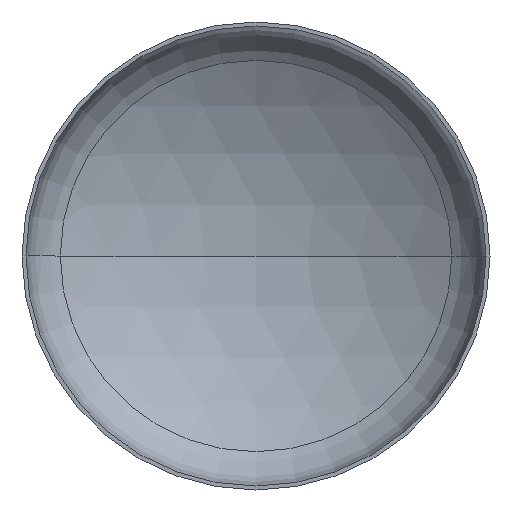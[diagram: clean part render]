
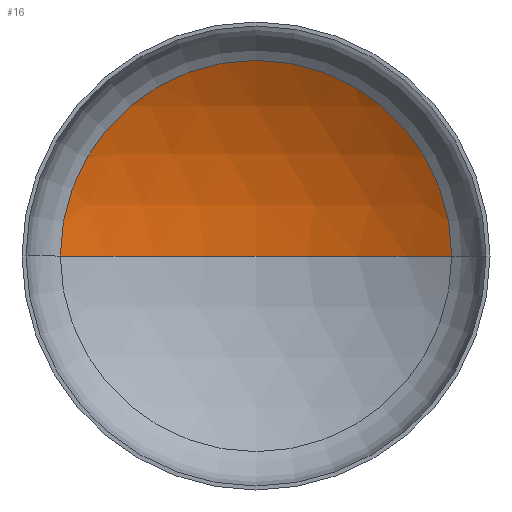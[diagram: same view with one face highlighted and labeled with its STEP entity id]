
A CAD part, front view. The second image highlights one B-rep face of the part: STEP entity #16.
In plain terms, the highlighted spherical face has radius 2080 mm.
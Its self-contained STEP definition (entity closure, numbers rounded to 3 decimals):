
#1 = AXIS2_PLACEMENT_3D ( 'NONE', #160, #362, #363 ) ;
#6 = EDGE_LOOP ( 'NONE', ( #202, #183, #131 ) ) ;
#11 = AXIS2_PLACEMENT_3D ( 'NONE', #305, #247, #13 ) ;
#13 = DIRECTION ( 'NONE',  ( 1., 0., 0. ) ) ;
#16 = ADVANCED_FACE ( 'NONE', ( #211 ), #205, .F. ) ;
#28 = DIRECTION ( 'NONE',  ( -1., 0., 0. ) ) ;
#44 = AXIS2_PLACEMENT_3D ( 'NONE', #243, #290, #292 ) ;
#69 = CARTESIAN_POINT ( 'NONE',  ( -1087.048, 411.027, 0. ) ) ;
#77 = VERTEX_POINT ( 'NONE', #185 ) ;
#106 = VERTEX_POINT ( 'NONE', #69 ) ;
#119 = CARTESIAN_POINT ( 'NONE',  ( 0., -1362.311, 0. ) ) ;
#131 = ORIENTED_EDGE ( 'NONE', *, *, #338, .T. ) ;
#160 = CARTESIAN_POINT ( 'NONE',  ( 0., -1362.311, 0. ) ) ;
#183 = ORIENTED_EDGE ( 'NONE', *, *, #384, .T. ) ;
#185 = CARTESIAN_POINT ( 'NONE',  ( 0., 717.689, 0. ) ) ;
#186 = CARTESIAN_POINT ( 'NONE',  ( 1087.048, 411.027, 0. ) ) ;
#202 = ORIENTED_EDGE ( 'NONE', *, *, #374, .F. ) ;
#205 = SPHERICAL_SURFACE ( 'NONE', #44, 2080. ) ;
#211 = FACE_OUTER_BOUND ( 'NONE', #6, .T. ) ;
#233 = AXIS2_PLACEMENT_3D ( 'NONE', #119, #337, #28 ) ;
#243 = CARTESIAN_POINT ( 'NONE',  ( 0., -1362.311, 0. ) ) ;
#247 = DIRECTION ( 'NONE',  ( 0., -1., 0. ) ) ;
#265 = CIRCLE ( 'NONE', #233, 2080. ) ;
#279 = VERTEX_POINT ( 'NONE', #186 ) ;
#290 = DIRECTION ( 'NONE',  ( 0., 0., -1. ) ) ;
#292 = DIRECTION ( 'NONE',  ( -1., 0., 0. ) ) ;
#305 = CARTESIAN_POINT ( 'NONE',  ( 0., 411.027, 0. ) ) ;
#335 = CIRCLE ( 'NONE', #1, 2080. ) ;
#337 = DIRECTION ( 'NONE',  ( 0., 0., -1. ) ) ;
#338 = EDGE_CURVE ( 'NONE', #279, #106, #352, .T. ) ;
#352 = CIRCLE ( 'NONE', #11, 1087.048 ) ;
#362 = DIRECTION ( 'NONE',  ( 0., 0., 1. ) ) ;
#363 = DIRECTION ( 'NONE',  ( 1., 0., 0. ) ) ;
#374 = EDGE_CURVE ( 'NONE', #77, #106, #335, .T. ) ;
#384 = EDGE_CURVE ( 'NONE', #77, #279, #265, .T. ) ;
